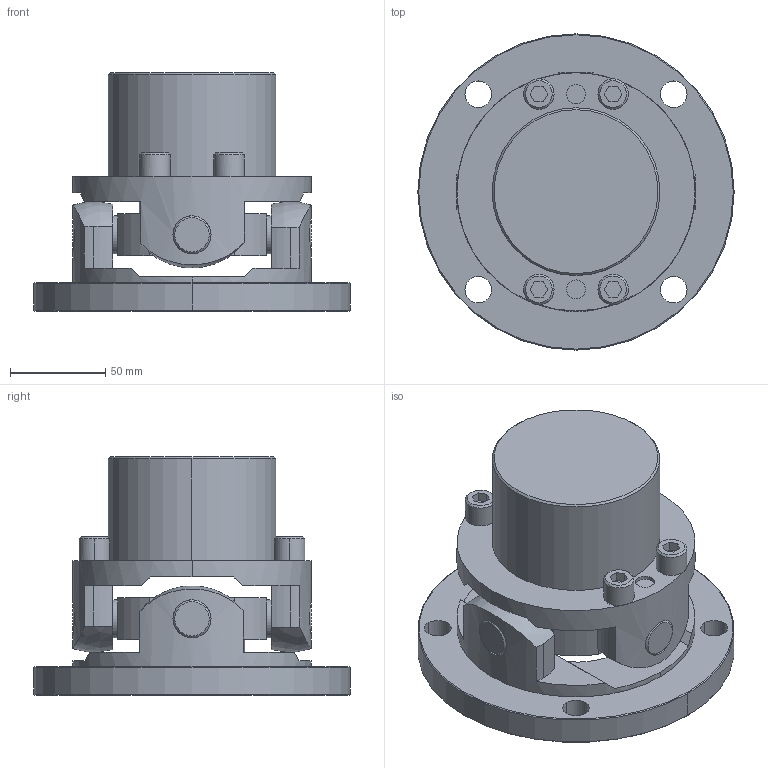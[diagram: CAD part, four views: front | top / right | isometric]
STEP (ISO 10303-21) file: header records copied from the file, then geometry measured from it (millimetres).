
FILE_DESCRIPTION((''),'2;1');
FILE_NAME('UCRF-125.stp','2013-05-13T09:14:01',(''),(''),'AutoCAD STEP 2000i','AutoCAD 2000i',', , ');
FILE_SCHEMA(('CONFIG_CONTROL_DESIGN'));
Length unit declared in the file: millimetre
Products named in the file (8): UCRF-125; 忣兜1; UCR-12502; UCN125-B042; UCNF-12502; UCN125-B032-1; UCN125-B032; UCN125-SEN
Assembly tree (7 placements, depth 2):
  UCRF-125
    忣兜1
    UCR-12502
    UCN125-B042
    UCNF-12502
    UCN125-B032-1
    UCN125-B032
    UCN125-SEN
Bounding box: 166 x 166 x 125 mm (x, y, z)
Volume: 955430.7 mm3; surface area: 135935.2 mm2
Topology: 1 solids, 1 shells, 239 faces, 601 edges, 400 vertices
Faces by surface type: plane 111, cylinder 90, cone 34, sphere 4
Entity records: 7892 total; most frequent: CARTESIAN_POINT 1765, DIRECTION 1319, ORIENTED_EDGE 1188, EDGE_CURVE 594, AXIS2_PLACEMENT_3D 503, VERTEX_POINT 386, VECTOR 313, LINE 313
